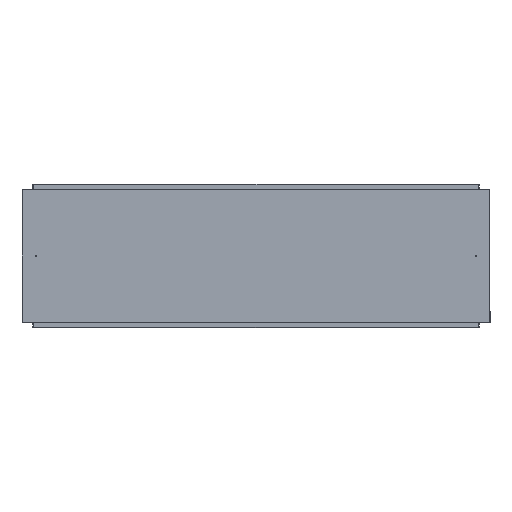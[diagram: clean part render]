
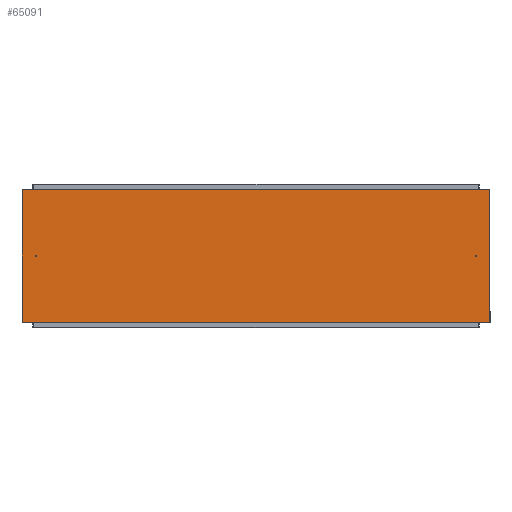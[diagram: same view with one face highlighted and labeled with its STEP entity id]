
A CAD part, left-side view. The second image highlights one B-rep face of the part: STEP entity #65091.
In plain terms, the highlighted planar face has unit normal (-1, 0, 0) as drawn and (0, 0, -1) by its records, which use the part's own axes.
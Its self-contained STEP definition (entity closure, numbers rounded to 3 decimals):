
#11798 = LINE ( 'NONE', #119064, #103731 ) ;
#12444 = LINE ( 'NONE', #108157, #70245 ) ;
#19562 = CARTESIAN_POINT ( 'NONE',  ( -283.49, -998.5, 0. ) ) ;
#23162 = VERTEX_POINT ( 'NONE', #145807 ) ;
#25463 = LINE ( 'NONE', #130468, #79160 ) ;
#28911 = AXIS2_PLACEMENT_3D ( 'NONE', #19562, #45587, #81069 ) ;
#34020 = PLANE ( 'NONE',  #28911 ) ;
#35483 = VECTOR ( 'NONE', #97362, 1000. ) ;
#42082 = EDGE_CURVE ( 'NONE', #141715, #23162, #25463, .T. ) ;
#42746 = FACE_OUTER_BOUND ( 'NONE', #87034, .T. ) ;
#45587 = DIRECTION ( 'NONE',  ( 0., 0., 1. ) ) ;
#50290 = CARTESIAN_POINT ( 'NONE',  ( -283.49, -998.5, 0. ) ) ;
#50340 = DIRECTION ( 'NONE',  ( -1., 0., 0. ) ) ;
#59420 = CARTESIAN_POINT ( 'NONE',  ( -283.49, -998.5, 0. ) ) ;
#65091 = ADVANCED_FACE ( 'NONE', ( #42746 ), #34020, .F. ) ;
#70245 = VECTOR ( 'NONE', #84224, 1000. ) ;
#72130 = CARTESIAN_POINT ( 'NONE',  ( 283.49, -998.5, 0. ) ) ;
#79160 = VECTOR ( 'NONE', #140510, 1000. ) ;
#81069 = DIRECTION ( 'NONE',  ( 1., 0., 0. ) ) ;
#84224 = DIRECTION ( 'NONE',  ( 0., -1., 0. ) ) ;
#87034 = EDGE_LOOP ( 'NONE', ( #106241, #121786, #146568, #98444 ) ) ;
#88113 = EDGE_CURVE ( 'NONE', #137442, #100914, #12444, .T. ) ;
#97362 = DIRECTION ( 'NONE',  ( 1., 0., 0. ) ) ;
#98444 = ORIENTED_EDGE ( 'NONE', *, *, #147961, .F. ) ;
#100281 = CARTESIAN_POINT ( 'NONE',  ( -283.49, 998.5, 0. ) ) ;
#100914 = VERTEX_POINT ( 'NONE', #59420 ) ;
#103731 = VECTOR ( 'NONE', #50340, 1000. ) ;
#106241 = ORIENTED_EDGE ( 'NONE', *, *, #88113, .F. ) ;
#108157 = CARTESIAN_POINT ( 'NONE',  ( -283.49, 998.5, 0. ) ) ;
#108944 = LINE ( 'NONE', #50290, #35483 ) ;
#119064 = CARTESIAN_POINT ( 'NONE',  ( -283.49, 998.5, 0. ) ) ;
#121786 = ORIENTED_EDGE ( 'NONE', *, *, #125469, .F. ) ;
#125469 = EDGE_CURVE ( 'NONE', #23162, #137442, #11798, .T. ) ;
#130468 = CARTESIAN_POINT ( 'NONE',  ( 283.49, 998.5, 0. ) ) ;
#137442 = VERTEX_POINT ( 'NONE', #100281 ) ;
#140510 = DIRECTION ( 'NONE',  ( 0., 1., 0. ) ) ;
#141715 = VERTEX_POINT ( 'NONE', #72130 ) ;
#145807 = CARTESIAN_POINT ( 'NONE',  ( 283.49, 998.5, 0. ) ) ;
#146568 = ORIENTED_EDGE ( 'NONE', *, *, #42082, .F. ) ;
#147961 = EDGE_CURVE ( 'NONE', #100914, #141715, #108944, .T. ) ;
